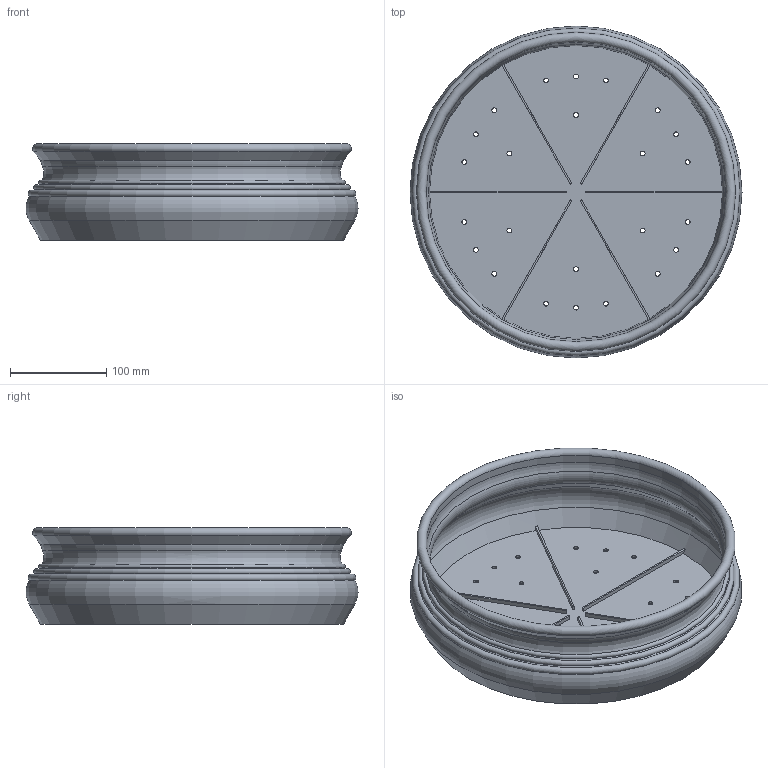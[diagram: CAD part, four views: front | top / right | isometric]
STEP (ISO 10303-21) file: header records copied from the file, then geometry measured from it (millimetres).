
FILE_DESCRIPTION(/* description */ (''),/* implementation_level */ '2;1');
FILE_NAME(/* name */ 'LR2406-S17-H100-D350_step.step',/* time_stamp */ '2024-02-01T11:03:34+01:00',/* author */ (''),/* organization */ (''),/* preprocessor_version */ 'ST-DEVELOPER v20',/* originating_system */ 'Autodesk Translation Framework v12.20.1.177',/* authorisation */ '');
FILE_SCHEMA (('AUTOMOTIVE_DESIGN { 1 0 10303 214 3 1 1 }'));
Length unit declared in the file: millimetre
Products named in the file (1): LR2406-S17-H100-D350
Bounding box: 344.72 x 344.72 x 100 mm (x, y, z)
Volume: 483886.2 mm3; surface area: 399946.3 mm2
Topology: 1 solids, 1 shells, 67 faces, 179 edges, 114 vertices
Faces by surface type: cylinder 31, plane 20, torus 10, cone 6
Full cylindrical faces by diameter (mm): 5 x24, 311.36 x1
Entity records: 2261 total; most frequent: DIRECTION 415, CARTESIAN_POINT 361, ORIENTED_EDGE 358, EDGE_CURVE 179, AXIS2_PLACEMENT_3D 168, EDGE_LOOP 115, VERTEX_POINT 114, CIRCLE 100
